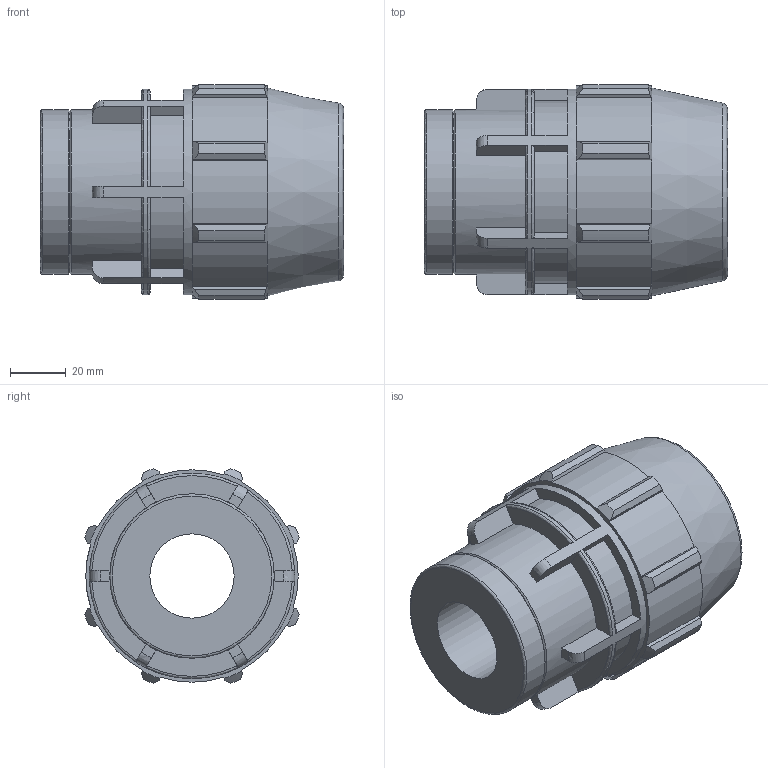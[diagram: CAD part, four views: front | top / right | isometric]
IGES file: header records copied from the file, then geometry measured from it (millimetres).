
Global section: file name: 0703M0T13010.ipt; native system: Autodesk Inventor 2019; preprocessor: unknown; author: KIM; date: 20210826.124517; units: inch
Bounding box: 108.97 x 77.2 x 77.2 mm (x, y, z)
Volume: 260055.7 mm3; surface area: 48257.3 mm2
Topology: 1 solids, 1 shells, 148 faces, 413 edges, 277 vertices
Faces by surface type: plane 86, revolution 25, cylinder 25, cone 12
Full cylindrical faces by diameter (mm): 59.07 x2, 73.838 x1
